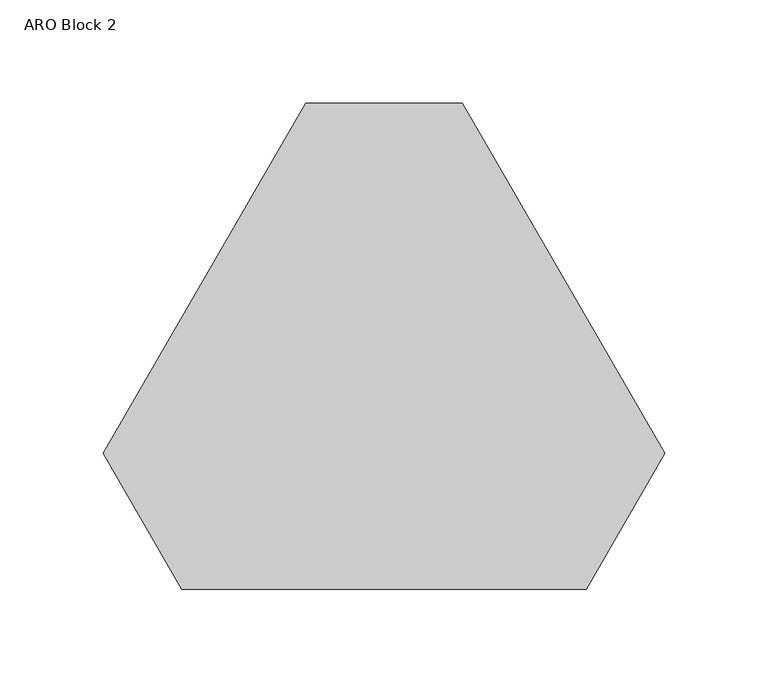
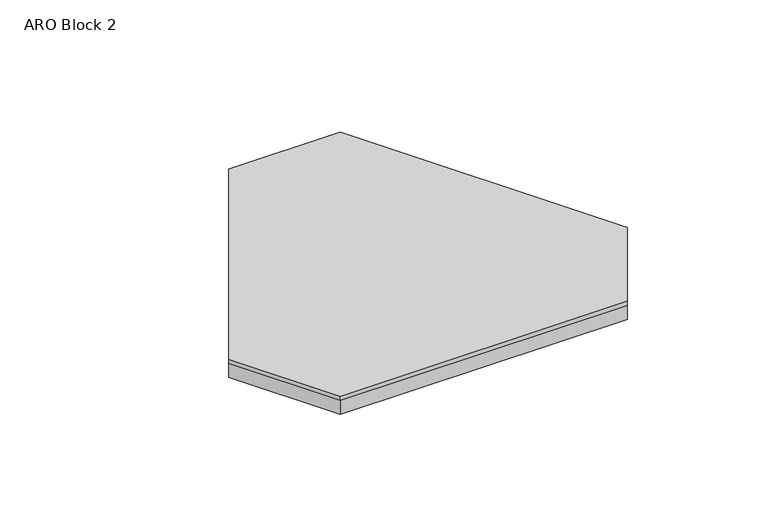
"""IFC4 building model written with IfcOpenShell, lengths in millimetres: proxy geometry, FilzFelt_ARO_Block 2 : ARO Block 2."""

from ifc_helpers import new_model, si_unit, frame, origin, origin_with_axes, place, context, project, spatial, polyline, outline, extrude, source, transform, mapped, element, save


def aro_block_2_8349c359(model_context):
    return source(origin(), model_context, "Body", "SweptSolid", [
        extrude(outline(polyline([(37.9343915, 134.7319022), (135.6484457, -34.5138044), (97.7140543, -100.2180978), (-97.7140543, -100.2180978), (-135.6484457, -34.5138044), (-37.9343915, 134.7319022), (37.9343915, 134.7319022)])), frame((0.0, 0.0, 10.0210937), z_axis=(0.0, 0.0, 1.0), x_axis=(1.0, 0.0, 0.0)), (0.0, 0.0, 1.0), 2.9765625),
        extrude(outline(polyline([(-97.7140543, -100.2180978), (-135.6484457, -34.5138044), (-37.9343915, 134.7319022), (37.9343915, 134.7319022), (135.6484457, -34.5138044), (97.7140543, -100.2180978), (-97.7140543, -100.2180978)])), origin_with_axes(), (0.0, 0.0, 1.0), 10.0210938),
    ])


if __name__ == "__main__":
    model = new_model("IFC4")
    model_context = context("Model", 3, world=origin())
    ifc_project = project(units=[si_unit("LENGTHUNIT", "METRE", prefix="MILLI")], contexts=[model_context])
    site = spatial("IfcSite", under=ifc_project)
    building = spatial("IfcBuilding", under=site)
    placement = place(None, origin())
    aro_block_2_shape = aro_block_2_8349c359(model_context)
    element("IfcBuildingElementProxy", 1, Name="FilzFelt_ARO_Block 2 : ARO Block 2", ObjectType="FilzFelt_ARO_Block 2 : ARO Block 2", at=placement, inside=building, context=model_context, shape_type="MappedRepresentation", body=[
        mapped(aro_block_2_shape, transform((0.0, 0.0, 0.0), x_axis=(1.0, 0.0, 0.0), y_axis=(0.0, 1.0, 0.0), z_axis=(0.0, 0.0, 1.0))),
    ])
    save(model, "model.ifc")
